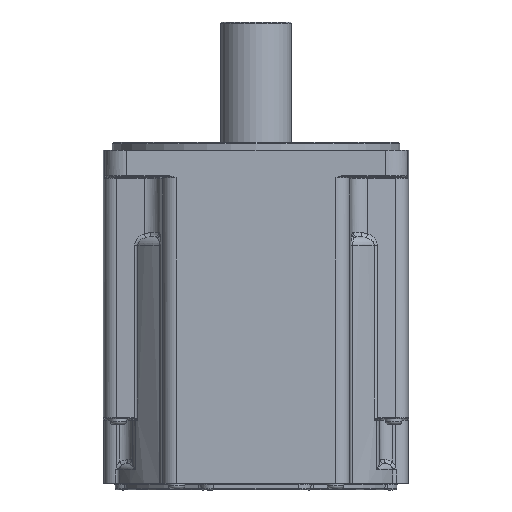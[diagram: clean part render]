
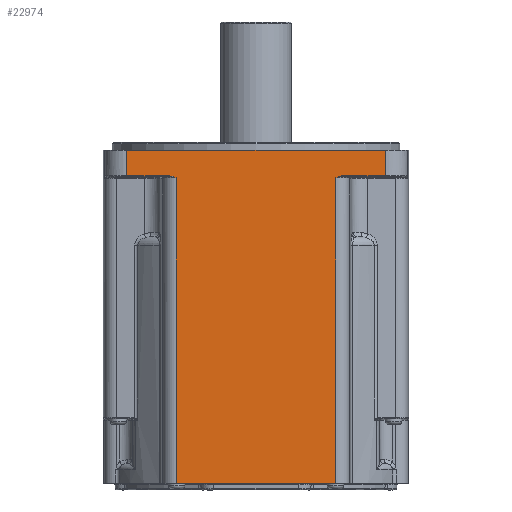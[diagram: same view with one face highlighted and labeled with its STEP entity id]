
A CAD part, front view. The second image highlights one B-rep face of the part: STEP entity #22974.
In plain terms, the highlighted planar face has unit normal (0, -1, 0).
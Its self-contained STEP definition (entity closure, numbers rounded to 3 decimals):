
#11348 = CARTESIAN_POINT ( 'NONE',  ( 36.185, -69., -151.74 ) ) ;
#11364 = CARTESIAN_POINT ( 'NONE',  ( -36.185, -69., -151.74 ) ) ;
#11365 = DIRECTION ( 'NONE',  ( 1., 0., 0. ) ) ;
#11382 = VECTOR ( 'NONE', #11365, 1000. ) ;
#11383 = CARTESIAN_POINT ( 'NONE',  ( -41.683, -69., -151.74 ) ) ;
#11384 = LINE ( 'NONE', #11383, #11382 ) ;
#18360 = VERTEX_POINT ( 'NONE', #11348 ) ;
#18362 = EDGE_CURVE ( 'NONE', #18363, #18360, #11384, .T. ) ;
#18363 = VERTEX_POINT ( 'NONE', #11364 ) ;
#19298 = CARTESIAN_POINT ( 'NONE',  ( -58.485, -69., -1.04 ) ) ;
#19491 = CARTESIAN_POINT ( 'NONE',  ( 36.185, -69., -13.546 ) ) ;
#19492 = DIRECTION ( 'NONE',  ( 0., 0., 1. ) ) ;
#19495 = VECTOR ( 'NONE', #19492, 1000. ) ;
#19497 = CARTESIAN_POINT ( 'NONE',  ( 36.185, -69., -13.05 ) ) ;
#19499 = LINE ( 'NONE', #19497, #19495 ) ;
#19503 = DIRECTION ( 'NONE',  ( 0., 0., -1. ) ) ;
#19505 = VECTOR ( 'NONE', #19503, 1000. ) ;
#19506 = CARTESIAN_POINT ( 'NONE',  ( -36.185, -69., -151.74 ) ) ;
#19508 = LINE ( 'NONE', #19506, #19505 ) ;
#19512 = CARTESIAN_POINT ( 'NONE',  ( -58.485, -69., -12.554 ) ) ;
#19515 = DIRECTION ( 'NONE',  ( 0., 0., -1. ) ) ;
#19518 = CARTESIAN_POINT ( 'NONE',  ( -36.185, -69., -13.546 ) ) ;
#19520 = CARTESIAN_POINT ( 'NONE',  ( -36.461, -69., -13.428 ) ) ;
#19521 = CARTESIAN_POINT ( 'NONE',  ( -36.74, -69., -13.309 ) ) ;
#19522 = CARTESIAN_POINT ( 'NONE',  ( -37.3, -69., -13.085 ) ) ;
#19524 = CARTESIAN_POINT ( 'NONE',  ( -37.582, -69., -12.978 ) ) ;
#19526 = CARTESIAN_POINT ( 'NONE',  ( -38.155, -69., -12.791 ) ) ;
#19528 = CARTESIAN_POINT ( 'NONE',  ( -38.446, -69., -12.71 ) ) ;
#19530 = CARTESIAN_POINT ( 'NONE',  ( -39.034, -69., -12.592 ) ) ;
#19532 = CARTESIAN_POINT ( 'NONE',  ( -39.331, -69., -12.554 ) ) ;
#19534 = CARTESIAN_POINT ( 'NONE',  ( -39.635, -69., -12.554 ) ) ;
#19535 = VECTOR ( 'NONE', #19515, 1000. ) ;
#19536 = CARTESIAN_POINT ( 'NONE',  ( -58.485, -69., -13.05 ) ) ;
#19538 = LINE ( 'NONE', #19536, #19535 ) ;
#19547 = CARTESIAN_POINT ( 'NONE',  ( -36.185, -69., -13.546 ) ) ;
#19549 = B_SPLINE_CURVE_WITH_KNOTS ( 'NONE', 3,
 ( #19534, #19532, #19530, #19528, #19526, #19524, #19522, #19521, #19520, #19518 ),
 .UNSPECIFIED., .F., .F.,
 ( 4, 2, 2, 2, 4 ),
 ( 0., 0.001, 0.002, 0.003, 0.004 ),
 .UNSPECIFIED. ) ;
#19554 = CARTESIAN_POINT ( 'NONE',  ( -39.635, -69., -12.554 ) ) ;
#19556 = DIRECTION ( 'NONE',  ( 1., 0., 0. ) ) ;
#19558 = VECTOR ( 'NONE', #19556, 1000. ) ;
#19559 = CARTESIAN_POINT ( 'NONE',  ( -36.185, -69., -12.554 ) ) ;
#19561 = LINE ( 'NONE', #19559, #19558 ) ;
#19601 = DIRECTION ( 'NONE',  ( 1., 0., 0. ) ) ;
#19603 = VECTOR ( 'NONE', #19601, 1000. ) ;
#19605 = CARTESIAN_POINT ( 'NONE',  ( 58.485, -69., -12.554 ) ) ;
#19607 = CARTESIAN_POINT ( 'NONE',  ( 39.635, -69., -12.554 ) ) ;
#19609 = CARTESIAN_POINT ( 'NONE',  ( 39.331, -69., -12.554 ) ) ;
#19610 = CARTESIAN_POINT ( 'NONE',  ( 39.034, -69., -12.592 ) ) ;
#19612 = CARTESIAN_POINT ( 'NONE',  ( 38.446, -69., -12.71 ) ) ;
#19613 = CARTESIAN_POINT ( 'NONE',  ( 38.155, -69., -12.791 ) ) ;
#19615 = CARTESIAN_POINT ( 'NONE',  ( 37.295, -69., -13.072 ) ) ;
#19617 = CARTESIAN_POINT ( 'NONE',  ( 36.74, -69., -13.309 ) ) ;
#19619 = CARTESIAN_POINT ( 'NONE',  ( 36.185, -69., -13.546 ) ) ;
#19630 = CARTESIAN_POINT ( 'NONE',  ( 39.635, -69., -12.554 ) ) ;
#19632 = B_SPLINE_CURVE_WITH_KNOTS ( 'NONE', 3,
 ( #19619, #19617, #19615, #19613, #19612, #19610, #19609, #19607 ),
 .UNSPECIFIED., .F., .F.,
 ( 4, 2, 2, 4 ),
 ( 0., 0.002, 0.003, 0.004 ),
 .UNSPECIFIED. ) ;
#19635 = LINE ( 'NONE', #19605, #19603 ) ;
#19967 = FACE_OUTER_BOUND ( 'NONE', #22859, .T. ) ;
#19985 = DIRECTION ( 'NONE',  ( -1., 0., 0. ) ) ;
#19986 = VECTOR ( 'NONE', #19985, 1000. ) ;
#19987 = CARTESIAN_POINT ( 'NONE',  ( -69., -69., -1.04 ) ) ;
#19988 = LINE ( 'NONE', #19987, #19986 ) ;
#19989 = CARTESIAN_POINT ( 'NONE',  ( 58.485, -69., -1.04 ) ) ;
#19990 = CARTESIAN_POINT ( 'NONE',  ( 58.485, -69., -12.554 ) ) ;
#19991 = DIRECTION ( 'NONE',  ( 0., 0., 1. ) ) ;
#19992 = VECTOR ( 'NONE', #19991, 1000. ) ;
#19993 = CARTESIAN_POINT ( 'NONE',  ( 58.485, -69., -13.05 ) ) ;
#19994 = LINE ( 'NONE', #19993, #19992 ) ;
#19995 = DIRECTION ( 'NONE',  ( 0., 0., -1. ) ) ;
#19996 = DIRECTION ( 'NONE',  ( 0., -1., 0. ) ) ;
#19997 = CARTESIAN_POINT ( 'NONE',  ( -69., -69., -13.05 ) ) ;
#19998 = AXIS2_PLACEMENT_3D ( 'NONE', #19997, #19996, #19995 ) ;
#19999 = PLANE ( 'NONE',  #19998 ) ;
#22851 = VERTEX_POINT ( 'NONE', #19298 ) ;
#22859 = EDGE_LOOP ( 'NONE', ( #22975, #22979, #22878, #22872, #22875, #22881, #22883, #22884, #22887, #22891 ) ) ;
#22872 = ORIENTED_EDGE ( 'NONE', *, *, #22873, .T. ) ;
#22873 = EDGE_CURVE ( 'NONE', #22880, #22874, #19561, .T. ) ;
#22874 = VERTEX_POINT ( 'NONE', #19554 ) ;
#22875 = ORIENTED_EDGE ( 'NONE', *, *, #22876, .T. ) ;
#22876 = EDGE_CURVE ( 'NONE', #22874, #22877, #19549, .T. ) ;
#22877 = VERTEX_POINT ( 'NONE', #19547 ) ;
#22878 = ORIENTED_EDGE ( 'NONE', *, *, #22879, .T. ) ;
#22879 = EDGE_CURVE ( 'NONE', #22851, #22880, #19538, .T. ) ;
#22880 = VERTEX_POINT ( 'NONE', #19512 ) ;
#22881 = ORIENTED_EDGE ( 'NONE', *, *, #22882, .T. ) ;
#22882 = EDGE_CURVE ( 'NONE', #22877, #18363, #19508, .T. ) ;
#22883 = ORIENTED_EDGE ( 'NONE', *, *, #18362, .T. ) ;
#22884 = ORIENTED_EDGE ( 'NONE', *, *, #22885, .T. ) ;
#22885 = EDGE_CURVE ( 'NONE', #18360, #22886, #19499, .T. ) ;
#22886 = VERTEX_POINT ( 'NONE', #19491 ) ;
#22887 = ORIENTED_EDGE ( 'NONE', *, *, #22888, .T. ) ;
#22888 = EDGE_CURVE ( 'NONE', #22886, #22889, #19632, .T. ) ;
#22889 = VERTEX_POINT ( 'NONE', #19630 ) ;
#22891 = ORIENTED_EDGE ( 'NONE', *, *, #22892, .T. ) ;
#22892 = EDGE_CURVE ( 'NONE', #22889, #22977, #19635, .T. ) ;
#22974 = ADVANCED_FACE ( 'NONE', ( #19967 ), #19999, .T. ) ;
#22975 = ORIENTED_EDGE ( 'NONE', *, *, #22976, .T. ) ;
#22976 = EDGE_CURVE ( 'NONE', #22977, #22978, #19994, .T. ) ;
#22977 = VERTEX_POINT ( 'NONE', #19990 ) ;
#22978 = VERTEX_POINT ( 'NONE', #19989 ) ;
#22979 = ORIENTED_EDGE ( 'NONE', *, *, #22980, .T. ) ;
#22980 = EDGE_CURVE ( 'NONE', #22978, #22851, #19988, .T. ) ;
